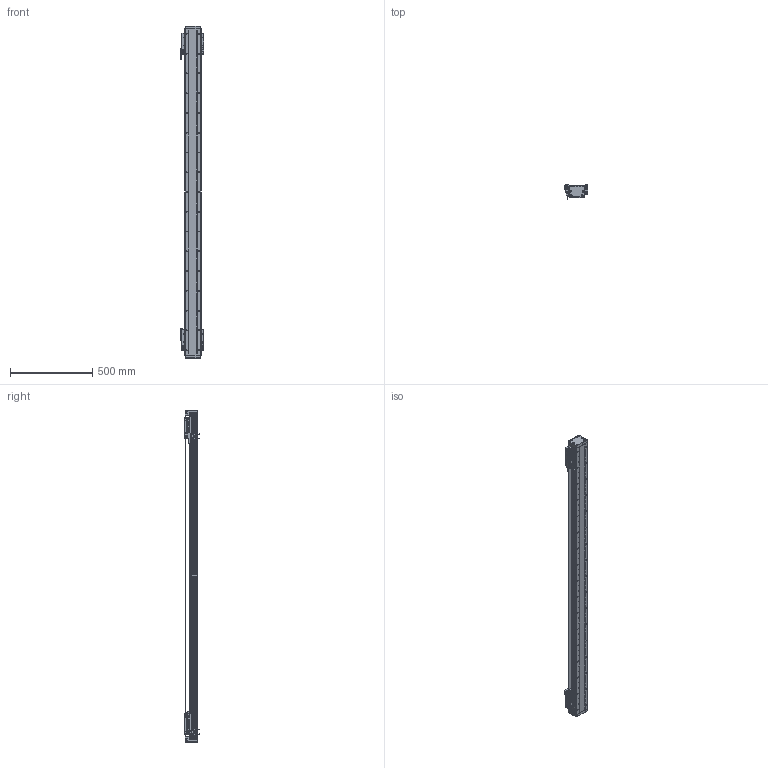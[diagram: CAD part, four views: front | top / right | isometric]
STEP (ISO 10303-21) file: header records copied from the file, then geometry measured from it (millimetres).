
FILE_DESCRIPTION (( 'STEP AP203' ), '1' );
FILE_NAME ('DA-B95-2-B15-T1640-C010-0.2 直线电机.STEP', '2023-05-06T06:32:44', ( '微软用户' ), ( '微软中国' ), 'SwSTEP 2.0', 'SolidWorks 2019', '' );
FILE_SCHEMA (( 'CONFIG_CONTROL_DESIGN' ));
Length unit declared in the file: millimetre
Products named in the file (34): 复件 纯铜油杯 6x6mm^66245-BU95-V 滚珠滑台; 复件 DA95-B15-YB-A-00 压板A^66245-BU95-V 滚珠滑台; 复件 DKW-KGZ-ZJ-00 中间光电开关支架^DA-A95-B15-T-C010-0.2-N 直线电机; 复件 复件 18252-0001-003-00 钢带拉块^DA-A95-B15-T-C010-0.2-N 直线电机; 复件 66245-BU95-HT-V-01 滑动台板^66245-BU95-V-00 一体化滑动台板; 66245-BU95-V-00 珨极趙賑雄怢啣; 复件 DKW-GYP-ZJ-00 中间光电感应片^DA-A95-B15-T-C010-0.2-N 直线电机; IU-BU95-L-00 菁釱_L1980; IU-BU95-L 菁釱絳寢; 复件 DA95-B15-YB-B-00 压板B^66245-BU95-V 滚珠滑台; 复件 六角薄螺母 M3^DA-A95-B15-T-C010-0.2-N 直线电机_GB_FASTENER_NUT_STNAB M3-C; 66245-BU95-V 幗紩賑怢; PM-T45 光电开关^DA-A95-B15-T-C010-0.2-N 直线电机; 复件 DA95-MFP-01 密封片^66245-BU95-V 滚珠滑台; 葩璃 DA95-B15-DP-A-00 菜えA^66245-BU95-V 幗紩賑怢; 葩璃 BKM015-W060-C1-TP-DA-0.2^DA-A95-B15-T-C010-0.2-N 眻盄萇儂; LMDK-2-R001-V5-L02-C1-F00，0.2M 读数头^DA-A95-B15-T-C010-0.2-N 直线电机_DMA-010-0.2; DA95-HXJ-00 缓冲橡胶^DA-A95-B15-T-C010-0.2-N 直线电机; 复件 DKW-HXJ-JY-00 缓冲橡胶^DA-A95-B15-T-C010-0.2-N 直线电机; DA-A95-GYP-00 光电感应片^DA-A95-B15-T-C010-0.2-N 直线电机; 复件 复件 18252-0001-004-00 钢带端盖^DA-A95-B15-T-C010-0.2-N 直线电机; B15 XD-U-02L ｴﾅﾕ､ｳﾟ^DA-A95-B15-T-C010-0.2-N ﾖｱﾏﾟｵ扈銈XD-U-02L; DA-B95-2-B15-T1640-C010-0.2 眻盄萇儂; 复件 DA95-DB-00  挡板^66245-BU95-V 滚珠滑台; 葩璃 PM-Y45^DA-A95-B15-T-C010-0.2-N 眻盄萇儂; 葩璃 DA95-GT-T-00^IU-BU95-L 菁釱絳寢_DA95; 葩璃 DA95-B15-DP--B-00 菜えB^66245-BU95-V 幗紩賑怢; 复件 复件 18252-0001-002-00 钢带垫块^DA-A95-B15-T-C010-0.2-N 直线电机; 复件 DA95-HK-GT-00 滑块钢轨^66245-BU95-V-00 一体化滑动台板; 葩璃 BKMA01-W060-TRL^DA-A95-B15-T-C010-0.2-N 眻盄萇儂; 复件 DA95-DK-00 挡块^66245-BU95-V 滚珠滑台; 复件 DA95-B15 钢带盖板^DA-A95-B15-T-C010-0.2-N 直线电机
Assembly tree (80 placements, depth 4):
  DA-B95-2-B15-T1640-C010-0.2 眻盄萇儂
    IU-BU95-L 菁釱絳寢
      IU-BU95-L-00 菁釱_L1980
      葩璃 DA95-GT-T-00^IU-BU95-L 菁釱絳寢_DA95  x2
    66245-BU95-V 幗紩賑怢
      66245-BU95-V-00 珨极趙賑雄怢啣
        复件 66245-BU95-HT-V-01 滑动台板^66245-BU95-V-00 一体化滑动台板
        复件 DA95-HK-GT-00 滑块钢轨^66245-BU95-V-00 一体化滑动台板  x2
      葩璃 DA95-B15-DP-A-00 菜えA^66245-BU95-V 幗紩賑怢
      复件 DA95-B15-YB-A-00 压板A^66245-BU95-V 滚珠滑台
      复件 DA95-B15-YB-B-00 压板B^66245-BU95-V 滚珠滑台
      复件 DA95-DB-00  挡板^66245-BU95-V 滚珠滑台  x4
      复件 DA95-DK-00 挡块^66245-BU95-V 滚珠滑台  x2
      复件 DA95-MFP-01 密封片^66245-BU95-V 滚珠滑台  x4
      复件 纯铜油杯 6x6mm^66245-BU95-V 滚珠滑台  x2
      葩璃 DA95-B15-DP--B-00 菜えB^66245-BU95-V 幗紩賑怢
    66245-BU95-V 幗紩賑怢
      66245-BU95-V-00 珨极趙賑雄怢啣
        复件 66245-BU95-HT-V-01 滑动台板^66245-BU95-V-00 一体化滑动台板
        复件 DA95-HK-GT-00 滑块钢轨^66245-BU95-V-00 一体化滑动台板  x2
      葩璃 DA95-B15-DP-A-00 菜えA^66245-BU95-V 幗紩賑怢
      复件 DA95-B15-YB-A-00 压板A^66245-BU95-V 滚珠滑台
      复件 DA95-B15-YB-B-00 压板B^66245-BU95-V 滚珠滑台
      复件 DA95-DB-00  挡板^66245-BU95-V 滚珠滑台  x4
      复件 DA95-DK-00 挡块^66245-BU95-V 滚珠滑台  x2
      复件 DA95-MFP-01 密封片^66245-BU95-V 滚珠滑台  x4
      复件 纯铜油杯 6x6mm^66245-BU95-V 滚珠滑台  x2
      葩璃 DA95-B15-DP--B-00 菜えB^66245-BU95-V 幗紩賑怢
    DA-A95-GYP-00 光电感应片^DA-A95-B15-T-C010-0.2-N 直线电机  x2
    LMDK-2-R001-V5-L02-C1-F00，0.2M 读数头^DA-A95-B15-T-C010-0.2-N 直线电机_DMA-010-0.2  x2
    复件 DKW-KGZ-ZJ-00 中间光电开关支架^DA-A95-B15-T-C010-0.2-N 直线电机
    葩璃 PM-Y45^DA-A95-B15-T-C010-0.2-N 眻盄萇儂
    复件 DKW-GYP-ZJ-00 中间光电感应片^DA-A95-B15-T-C010-0.2-N 直线电机
    葩璃 BKM015-W060-C1-TP-DA-0.2^DA-A95-B15-T-C010-0.2-N 眻盄萇儂  x2
    复件 DKW-HXJ-JY-00 缓冲橡胶^DA-A95-B15-T-C010-0.2-N 直线电机  x2
    PM-T45 光电开关^DA-A95-B15-T-C010-0.2-N 直线电机  x4
    B15 XD-U-02L ｴﾅﾕ､ｳﾟ^DA-A95-B15-T-C010-0.2-N ﾖｱﾏﾟｵ扈銈XD-U-02L
    复件 复件 18252-0001-003-00 钢带拉块^DA-A95-B15-T-C010-0.2-N 直线电机  x2
    复件 复件 18252-0001-002-00 钢带垫块^DA-A95-B15-T-C010-0.2-N 直线电机  x2
    复件 复件 18252-0001-004-00 钢带端盖^DA-A95-B15-T-C010-0.2-N 直线电机  x2
    复件 DA95-B15 钢带盖板^DA-A95-B15-T-C010-0.2-N 直线电机
    DA95-HXJ-00 缓冲橡胶^DA-A95-B15-T-C010-0.2-N 直线电机  x4
    葩璃 BKMA01-W060-TRL^DA-A95-B15-T-C010-0.2-N 眻盄萇儂
    复件 六角薄螺母 M3^DA-A95-B15-T-C010-0.2-N 直线电机_GB_FASTENER_NUT_STNAB M3-C  x6
Bounding box: 145.4 x 90.2 x 2016 mm (x, y, z)
Volume: 6813328.6 mm3; surface area: 2233694.7 mm2
Topology: 75 solids, 93 shells, 3976 faces, 10996 edges, 6943 vertices
Faces by surface type: cylinder 1981, plane 1463, cone 464, torus 64, sphere 4
Entity records: 90476 total; most frequent: CARTESIAN_POINT 22734, ORIENTED_EDGE 13350, DIRECTION 13128, EDGE_CURVE 6675, AXIS2_PLACEMENT_3D 4969, VERTEX_POINT 4345, VECTOR 3190, LINE 3190
